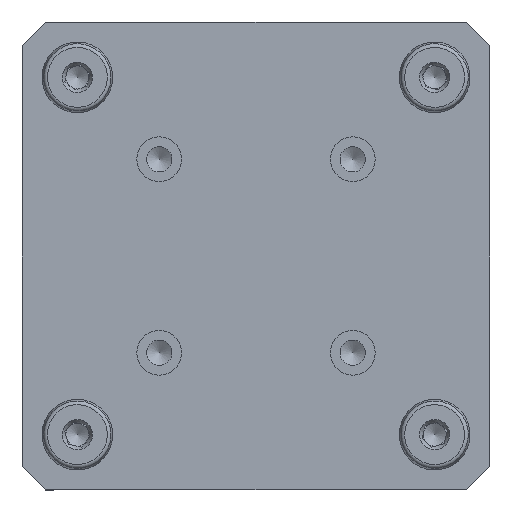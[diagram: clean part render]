
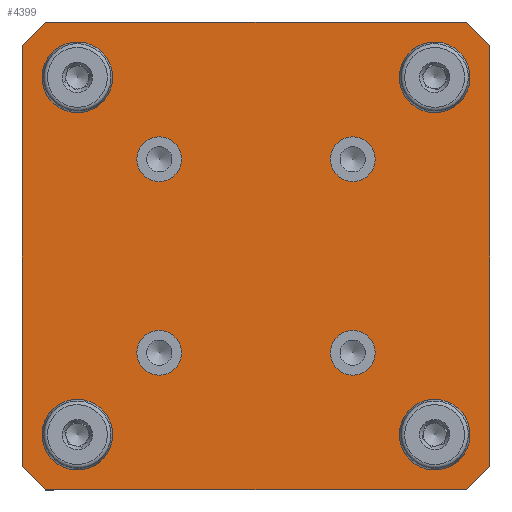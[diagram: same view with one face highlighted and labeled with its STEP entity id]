
A CAD part, front view. The second image highlights one B-rep face of the part: STEP entity #4399.
In plain terms, the highlighted planar face has unit normal (0, -1, 0).
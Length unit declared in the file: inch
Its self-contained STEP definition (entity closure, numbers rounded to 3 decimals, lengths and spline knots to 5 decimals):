
#45 = CARTESIAN_POINT ( 'NONE',  ( 1.02362, -0.27362, 0.78707 ) ) ;
#52 = CARTESIAN_POINT ( 'NONE',  ( -1.88976, -0.27362, -2.20511 ) ) ;
#218 = DIRECTION ( 'NONE',  ( 0., 0., -1. ) ) ;
#228 = CIRCLE ( 'NONE', #3783, 0.23655 ) ;
#282 = DIRECTION ( 'NONE',  ( 0., 0., -1. ) ) ;
#344 = CARTESIAN_POINT ( 'NONE',  ( -2.475, -0.27362, -2.225 ) ) ;
#417 = VECTOR ( 'NONE', #10266, 39.37008 ) ;
#694 = EDGE_LOOP ( 'NONE', ( #4195 ) ) ;
#697 = CIRCLE ( 'NONE', #6731, 0.31535 ) ;
#748 = CARTESIAN_POINT ( 'NONE',  ( -2.475, -0.27362, 2.225 ) ) ;
#816 = AXIS2_PLACEMENT_3D ( 'NONE', #9615, #7555, #8587 ) ;
#977 = ORIENTED_EDGE ( 'NONE', *, *, #5109, .T. ) ;
#978 = CARTESIAN_POINT ( 'NONE',  ( 2.475, -0.27362, -2.225 ) ) ;
#988 = EDGE_CURVE ( 'NONE', #4972, #5229, #6507, .T. ) ;
#1152 = CIRCLE ( 'NONE', #6176, 0.31535 ) ;
#1486 = ORIENTED_EDGE ( 'NONE', *, *, #10221, .F. ) ;
#1555 = CARTESIAN_POINT ( 'NONE',  ( 1.88976, -0.27362, -1.88976 ) ) ;
#1603 = DIRECTION ( 'NONE',  ( 0., -1., 0. ) ) ;
#1645 = ORIENTED_EDGE ( 'NONE', *, *, #6686, .T. ) ;
#1692 = VERTEX_POINT ( 'NONE', #3273 ) ;
#1814 = DIRECTION ( 'NONE',  ( 0., -1., 0. ) ) ;
#2170 = ORIENTED_EDGE ( 'NONE', *, *, #8120, .F. ) ;
#2457 = FACE_BOUND ( 'NONE', #6949, .T. ) ;
#2524 = CARTESIAN_POINT ( 'NONE',  ( 0., -0.27362, 0. ) ) ;
#2573 = EDGE_CURVE ( 'NONE', #4534, #4534, #1152, .T. ) ;
#2580 = CARTESIAN_POINT ( 'NONE',  ( -1.88976, -0.27362, 1.88976 ) ) ;
#2625 = EDGE_CURVE ( 'NONE', #5229, #4638, #2700, .T. ) ;
#2649 = ORIENTED_EDGE ( 'NONE', *, *, #6563, .F. ) ;
#2670 = VERTEX_POINT ( 'NONE', #10149 ) ;
#2690 = ORIENTED_EDGE ( 'NONE', *, *, #9991, .F. ) ;
#2700 = LINE ( 'NONE', #8412, #9677 ) ;
#2708 = EDGE_LOOP ( 'NONE', ( #5968 ) ) ;
#2737 = DIRECTION ( 'NONE',  ( -1., 0., 0. ) ) ;
#2779 = ORIENTED_EDGE ( 'NONE', *, *, #11731, .T. ) ;
#2867 = CARTESIAN_POINT ( 'NONE',  ( -1.02362, -0.27362, -1.26017 ) ) ;
#2884 = VECTOR ( 'NONE', #8140, 39.37008 ) ;
#2904 = EDGE_CURVE ( 'NONE', #9099, #9099, #9919, .T. ) ;
#3089 = AXIS2_PLACEMENT_3D ( 'NONE', #7059, #3326, #9035 ) ;
#3127 = CARTESIAN_POINT ( 'NONE',  ( -1.02362, -0.27362, -1.02362 ) ) ;
#3183 = VERTEX_POINT ( 'NONE', #5602 ) ;
#3235 = FACE_BOUND ( 'NONE', #8420, .T. ) ;
#3239 = EDGE_LOOP ( 'NONE', ( #2170 ) ) ;
#3273 = CARTESIAN_POINT ( 'NONE',  ( -2.225, -0.27362, -2.475 ) ) ;
#3311 = VERTEX_POINT ( 'NONE', #9534 ) ;
#3326 = DIRECTION ( 'NONE',  ( 0., -1., 0. ) ) ;
#3341 = LINE ( 'NONE', #6147, #10826 ) ;
#3589 = DIRECTION ( 'NONE',  ( 0., 0., -1. ) ) ;
#3746 = VERTEX_POINT ( 'NONE', #5641 ) ;
#3783 = AXIS2_PLACEMENT_3D ( 'NONE', #6434, #1814, #5500 ) ;
#3868 = CARTESIAN_POINT ( 'NONE',  ( -2.35, -0.27362, 2.35 ) ) ;
#4079 = CARTESIAN_POINT ( 'NONE',  ( 1.88976, -0.27362, 1.88976 ) ) ;
#4080 = CARTESIAN_POINT ( 'NONE',  ( 2.475, -0.27362, 2.475 ) ) ;
#4144 = FACE_BOUND ( 'NONE', #4619, .T. ) ;
#4195 = ORIENTED_EDGE ( 'NONE', *, *, #2573, .F. ) ;
#4226 = DIRECTION ( 'NONE',  ( 1., 0., 0. ) ) ;
#4274 = LINE ( 'NONE', #11791, #6696 ) ;
#4284 = ORIENTED_EDGE ( 'NONE', *, *, #5525, .T. ) ;
#4399 = ADVANCED_FACE ( 'NONE', ( #8934, #4144, #7853, #7899, #11538, #10815, #2457, #3235, #5159 ), #11593, .T. ) ;
#4470 = CARTESIAN_POINT ( 'NONE',  ( -1.88976, -0.27362, 1.57441 ) ) ;
#4534 = VERTEX_POINT ( 'NONE', #4470 ) ;
#4556 = ORIENTED_EDGE ( 'NONE', *, *, #2904, .F. ) ;
#4593 = VERTEX_POINT ( 'NONE', #45 ) ;
#4619 = EDGE_LOOP ( 'NONE', ( #4556 ) ) ;
#4638 = VERTEX_POINT ( 'NONE', #344 ) ;
#4749 = EDGE_CURVE ( 'NONE', #9271, #9916, #10989, .T. ) ;
#4791 = CIRCLE ( 'NONE', #10606, 0.23655 ) ;
#4815 = CARTESIAN_POINT ( 'NONE',  ( 2.225, -0.27362, -2.475 ) ) ;
#4946 = ORIENTED_EDGE ( 'NONE', *, *, #2625, .T. ) ;
#4972 = VERTEX_POINT ( 'NONE', #9306 ) ;
#4992 = AXIS2_PLACEMENT_3D ( 'NONE', #2524, #8868, #7964 ) ;
#5003 = EDGE_LOOP ( 'NONE', ( #2690 ) ) ;
#5029 = EDGE_CURVE ( 'NONE', #9916, #3311, #7015, .T. ) ;
#5109 = EDGE_CURVE ( 'NONE', #3311, #3183, #3341, .T. ) ;
#5159 = FACE_OUTER_BOUND ( 'NONE', #6393, .T. ) ;
#5229 = VERTEX_POINT ( 'NONE', #748 ) ;
#5359 = VECTOR ( 'NONE', #9928, 39.37008 ) ;
#5435 = AXIS2_PLACEMENT_3D ( 'NONE', #4079, #5971, #7791 ) ;
#5500 = DIRECTION ( 'NONE',  ( 0., 0., -1. ) ) ;
#5525 = EDGE_CURVE ( 'NONE', #1692, #9271, #6019, .T. ) ;
#5602 = CARTESIAN_POINT ( 'NONE',  ( 2.225, -0.27362, 2.475 ) ) ;
#5641 = CARTESIAN_POINT ( 'NONE',  ( 1.88976, -0.27362, -2.20511 ) ) ;
#5814 = CARTESIAN_POINT ( 'NONE',  ( 1.02362, -0.27362, 1.02362 ) ) ;
#5867 = DIRECTION ( 'NONE',  ( 0., -1., 0. ) ) ;
#5968 = ORIENTED_EDGE ( 'NONE', *, *, #10039, .F. ) ;
#5971 = DIRECTION ( 'NONE',  ( 0., -1., 0. ) ) ;
#5989 = VECTOR ( 'NONE', #11416, 39.37008 ) ;
#5993 = DIRECTION ( 'NONE',  ( 0., 0., -1. ) ) ;
#6019 = LINE ( 'NONE', #9737, #7560 ) ;
#6147 = CARTESIAN_POINT ( 'NONE',  ( 2.35, -0.27362, 2.35 ) ) ;
#6152 = ORIENTED_EDGE ( 'NONE', *, *, #9488, .F. ) ;
#6176 = AXIS2_PLACEMENT_3D ( 'NONE', #2580, #1603, #5993 ) ;
#6393 = EDGE_LOOP ( 'NONE', ( #4946, #1645, #4284, #11890, #9282, #977, #2779, #7462 ) ) ;
#6434 = CARTESIAN_POINT ( 'NONE',  ( 1.02362, -0.27362, -1.02362 ) ) ;
#6507 = LINE ( 'NONE', #3868, #417 ) ;
#6563 = EDGE_CURVE ( 'NONE', #9181, #9181, #4791, .T. ) ;
#6686 = EDGE_CURVE ( 'NONE', #4638, #1692, #7137, .T. ) ;
#6696 = VECTOR ( 'NONE', #2737, 39.37008 ) ;
#6731 = AXIS2_PLACEMENT_3D ( 'NONE', #1555, #9869, #11495 ) ;
#6788 = CIRCLE ( 'NONE', #3089, 0.23655 ) ;
#6825 = CIRCLE ( 'NONE', #5435, 0.31535 ) ;
#6949 = EDGE_LOOP ( 'NONE', ( #2649 ) ) ;
#7015 = LINE ( 'NONE', #4080, #5989 ) ;
#7059 = CARTESIAN_POINT ( 'NONE',  ( -1.02362, -0.27362, 1.02362 ) ) ;
#7137 = LINE ( 'NONE', #11765, #5359 ) ;
#7296 = CIRCLE ( 'NONE', #10759, 0.23655 ) ;
#7462 = ORIENTED_EDGE ( 'NONE', *, *, #988, .T. ) ;
#7555 = DIRECTION ( 'NONE',  ( 0., -1., 0. ) ) ;
#7560 = VECTOR ( 'NONE', #4226, 39.37008 ) ;
#7791 = DIRECTION ( 'NONE',  ( 0., 0., -1. ) ) ;
#7853 = FACE_BOUND ( 'NONE', #8732, .T. ) ;
#7899 = FACE_BOUND ( 'NONE', #3239, .T. ) ;
#7964 = DIRECTION ( 'NONE',  ( 0., 0., -1. ) ) ;
#8120 = EDGE_CURVE ( 'NONE', #11511, #11511, #6788, .T. ) ;
#8140 = DIRECTION ( 'NONE',  ( 0.707, 0., 0.707 ) ) ;
#8412 = CARTESIAN_POINT ( 'NONE',  ( -2.475, -0.27362, 2.475 ) ) ;
#8420 = EDGE_LOOP ( 'NONE', ( #6152 ) ) ;
#8441 = VERTEX_POINT ( 'NONE', #9414 ) ;
#8587 = DIRECTION ( 'NONE',  ( 0., 0., -1. ) ) ;
#8732 = EDGE_LOOP ( 'NONE', ( #1486 ) ) ;
#8868 = DIRECTION ( 'NONE',  ( 0., -1., 0. ) ) ;
#8934 = FACE_BOUND ( 'NONE', #694, .T. ) ;
#9035 = DIRECTION ( 'NONE',  ( 0., 0., -1. ) ) ;
#9099 = VERTEX_POINT ( 'NONE', #52 ) ;
#9181 = VERTEX_POINT ( 'NONE', #2867 ) ;
#9271 = VERTEX_POINT ( 'NONE', #4815 ) ;
#9282 = ORIENTED_EDGE ( 'NONE', *, *, #5029, .T. ) ;
#9306 = CARTESIAN_POINT ( 'NONE',  ( -2.225, -0.27362, 2.475 ) ) ;
#9414 = CARTESIAN_POINT ( 'NONE',  ( 1.88976, -0.27362, 1.57441 ) ) ;
#9488 = EDGE_CURVE ( 'NONE', #8441, #8441, #6825, .T. ) ;
#9534 = CARTESIAN_POINT ( 'NONE',  ( 2.475, -0.27362, 2.225 ) ) ;
#9591 = DIRECTION ( 'NONE',  ( 0., -1., 0. ) ) ;
#9615 = CARTESIAN_POINT ( 'NONE',  ( -1.88976, -0.27362, -1.88976 ) ) ;
#9677 = VECTOR ( 'NONE', #3589, 39.37008 ) ;
#9683 = DIRECTION ( 'NONE',  ( -0.707, 0., 0.707 ) ) ;
#9724 = CARTESIAN_POINT ( 'NONE',  ( -1.02362, -0.27362, 0.78707 ) ) ;
#9737 = CARTESIAN_POINT ( 'NONE',  ( -2.475, -0.27362, -2.475 ) ) ;
#9869 = DIRECTION ( 'NONE',  ( 0., -1., 0. ) ) ;
#9916 = VERTEX_POINT ( 'NONE', #978 ) ;
#9919 = CIRCLE ( 'NONE', #816, 0.31535 ) ;
#9928 = DIRECTION ( 'NONE',  ( 0.707, 0., -0.707 ) ) ;
#9970 = CARTESIAN_POINT ( 'NONE',  ( 2.35, -0.27362, -2.35 ) ) ;
#9991 = EDGE_CURVE ( 'NONE', #2670, #2670, #228, .T. ) ;
#10039 = EDGE_CURVE ( 'NONE', #4593, #4593, #7296, .T. ) ;
#10149 = CARTESIAN_POINT ( 'NONE',  ( 1.02362, -0.27362, -1.26017 ) ) ;
#10221 = EDGE_CURVE ( 'NONE', #3746, #3746, #697, .T. ) ;
#10266 = DIRECTION ( 'NONE',  ( -0.707, 0., -0.707 ) ) ;
#10606 = AXIS2_PLACEMENT_3D ( 'NONE', #3127, #5867, #218 ) ;
#10759 = AXIS2_PLACEMENT_3D ( 'NONE', #5814, #9591, #282 ) ;
#10815 = FACE_BOUND ( 'NONE', #5003, .T. ) ;
#10826 = VECTOR ( 'NONE', #9683, 39.37008 ) ;
#10989 = LINE ( 'NONE', #9970, #2884 ) ;
#11416 = DIRECTION ( 'NONE',  ( 0., 0., 1. ) ) ;
#11495 = DIRECTION ( 'NONE',  ( 0., 0., -1. ) ) ;
#11511 = VERTEX_POINT ( 'NONE', #9724 ) ;
#11538 = FACE_BOUND ( 'NONE', #2708, .T. ) ;
#11593 = PLANE ( 'NONE',  #4992 ) ;
#11731 = EDGE_CURVE ( 'NONE', #3183, #4972, #4274, .T. ) ;
#11765 = CARTESIAN_POINT ( 'NONE',  ( -2.35, -0.27362, -2.35 ) ) ;
#11791 = CARTESIAN_POINT ( 'NONE',  ( -2.475, -0.27362, 2.475 ) ) ;
#11890 = ORIENTED_EDGE ( 'NONE', *, *, #4749, .T. ) ;
